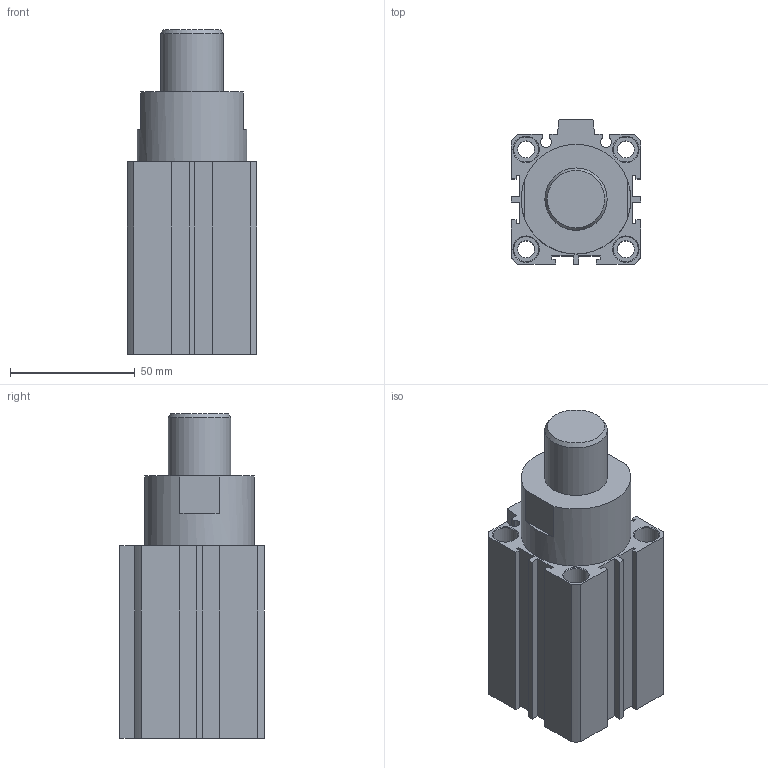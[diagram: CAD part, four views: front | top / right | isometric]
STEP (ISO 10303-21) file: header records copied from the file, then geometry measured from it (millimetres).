
FILE_DESCRIPTION((''),'2;1');
FILE_NAME('I:\3D電子目錄\氣缸\STB\STB\STB40\STB40x25.stp','2007-09-19T13:33:21',('Administrator'),(''),'Autodesk Inventor 11','Autodesk Inventor 11','');
FILE_SCHEMA(('AUTOMOTIVE_DESIGN { 1 0 10303 214 1 1 1 1 }'));
Length unit declared in the file: millimetre
Products named in the file (1): STB40
Bounding box: 52 x 58 x 130.2 mm (x, y, z)
Volume: 234752.1 mm3; surface area: 42770.6 mm2
Topology: 2 solids, 2 shells, 123 faces, 290 edges, 190 vertices
Faces by surface type: plane 76, cylinder 28, cone 15, bspline 3, torus 1
Full cylindrical faces by diameter (mm): 2.2 x2, 6.8 x4, 10 x8, 25 x1, 29 x1, 42 x2, 44 x2, 44.5 x2
Entity records: 3365 total; most frequent: CARTESIAN_POINT 616, DIRECTION 566, ORIENTED_EDGE 488, EDGE_CURVE 244, AXIS2_PLACEMENT_3D 201, EDGE_LOOP 192, VERTEX_POINT 184, VECTOR 164
